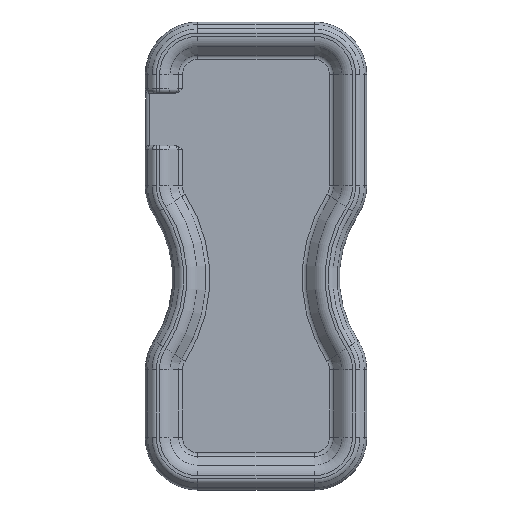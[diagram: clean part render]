
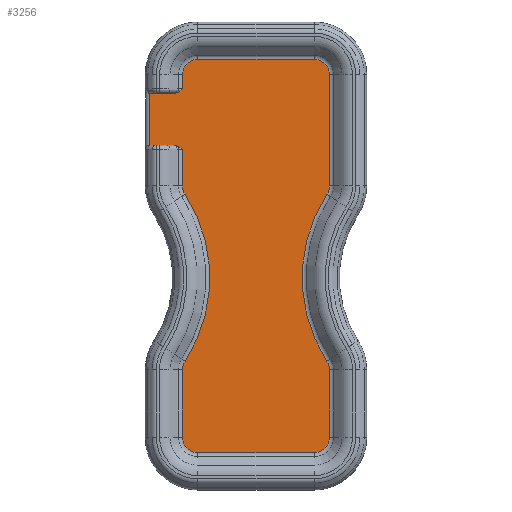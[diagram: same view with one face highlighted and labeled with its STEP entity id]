
A CAD part, top view. The second image highlights one B-rep face of the part: STEP entity #3256.
In plain terms, the highlighted planar face has unit normal (0, 0, 1).
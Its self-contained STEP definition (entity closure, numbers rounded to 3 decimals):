
#93=ELLIPSE('',#3483,2.121,1.5);
#94=ELLIPSE('',#3488,2.121,1.5);
#96=B_SPLINE_CURVE_WITH_KNOTS('',3,(#5396,#5397,#5398,#5399,#5400,#5401),
 .UNSPECIFIED.,.F.,.F.,(4,2,4),(0.,0.192,0.229),
 .UNSPECIFIED.);
#97=B_SPLINE_CURVE_WITH_KNOTS('',3,(#5411,#5412,#5413,#5414,#5415,#5416),
 .UNSPECIFIED.,.F.,.F.,(4,2,4),(0.874,0.911,1.102),
 .UNSPECIFIED.);
#322=FACE_OUTER_BOUND('',#537,.T.);
#537=EDGE_LOOP('',(#2778,#2779,#2780,#2781,#2782,#2783,#2784,#2785,#2786,
#2787,#2788,#2789,#2790,#2791,#2792,#2793,#2794,#2795,#2796,#2797,#2798,
#2799,#2800,#2801));
#773=CIRCLE('',#3639,5.343);
#774=CIRCLE('',#3640,52.506);
#775=CIRCLE('',#3641,5.343);
#776=CIRCLE('',#3642,5.343);
#777=CIRCLE('',#3643,5.343);
#778=CIRCLE('',#3644,5.343);
#779=CIRCLE('',#3645,52.506);
#780=CIRCLE('',#3646,5.343);
#781=CIRCLE('',#3647,5.343);
#782=CIRCLE('',#3648,5.343);
#964=LINE('',#5387,#1204);
#968=LINE('',#5423,#1208);
#1018=LINE('',#5649,#1258);
#1024=LINE('',#5691,#1264);
#1027=LINE('',#5698,#1267);
#1028=LINE('',#5708,#1268);
#1029=LINE('',#5712,#1269);
#1030=LINE('',#5716,#1270);
#1031=LINE('',#5724,#1271);
#1032=LINE('',#5728,#1272);
#1204=VECTOR('',#4217,10.);
#1208=VECTOR('',#4245,10.);
#1258=VECTOR('',#4505,10.);
#1264=VECTOR('',#4583,10.);
#1267=VECTOR('',#4590,10.);
#1268=VECTOR('',#4601,10.);
#1269=VECTOR('',#4604,10.);
#1270=VECTOR('',#4607,10.);
#1271=VECTOR('',#4614,10.);
#1272=VECTOR('',#4617,10.);
#1430=VERTEX_POINT('',#5208);
#1444=VERTEX_POINT('',#5278);
#1457=VERTEX_POINT('',#5332);
#1468=VERTEX_POINT('',#5383);
#1469=VERTEX_POINT('',#5389);
#1471=VERTEX_POINT('',#5395);
#1472=VERTEX_POINT('',#5404);
#1474=VERTEX_POINT('',#5410);
#1476=VERTEX_POINT('',#5421);
#1549=VERTEX_POINT('',#5697);
#1550=VERTEX_POINT('',#5701);
#1551=VERTEX_POINT('',#5703);
#1552=VERTEX_POINT('',#5705);
#1553=VERTEX_POINT('',#5707);
#1554=VERTEX_POINT('',#5709);
#1555=VERTEX_POINT('',#5711);
#1556=VERTEX_POINT('',#5713);
#1557=VERTEX_POINT('',#5715);
#1558=VERTEX_POINT('',#5717);
#1559=VERTEX_POINT('',#5719);
#1560=VERTEX_POINT('',#5721);
#1561=VERTEX_POINT('',#5723);
#1562=VERTEX_POINT('',#5725);
#1563=VERTEX_POINT('',#5727);
#1822=EDGE_CURVE('',#1430,#1468,#964,.T.);
#1823=EDGE_CURVE('',#1469,#1457,#93,.T.);
#1826=EDGE_CURVE('',#1471,#1469,#96,.T.);
#1828=EDGE_CURVE('',#1472,#1444,#94,.F.);
#1831=EDGE_CURVE('',#1474,#1472,#97,.F.);
#1835=EDGE_CURVE('',#1476,#1474,#968,.T.);
#1949=EDGE_CURVE('',#1468,#1457,#1018,.T.);
#1969=EDGE_CURVE('',#1444,#1430,#1024,.T.);
#1972=EDGE_CURVE('',#1471,#1549,#1027,.T.);
#1974=EDGE_CURVE('',#1550,#1476,#773,.T.);
#1975=EDGE_CURVE('',#1551,#1550,#774,.T.);
#1976=EDGE_CURVE('',#1552,#1551,#775,.T.);
#1977=EDGE_CURVE('',#1553,#1552,#1028,.T.);
#1978=EDGE_CURVE('',#1554,#1553,#776,.T.);
#1979=EDGE_CURVE('',#1555,#1554,#1029,.T.);
#1980=EDGE_CURVE('',#1556,#1555,#777,.T.);
#1981=EDGE_CURVE('',#1557,#1556,#1030,.T.);
#1982=EDGE_CURVE('',#1558,#1557,#778,.T.);
#1983=EDGE_CURVE('',#1559,#1558,#779,.T.);
#1984=EDGE_CURVE('',#1560,#1559,#780,.T.);
#1985=EDGE_CURVE('',#1561,#1560,#1031,.T.);
#1986=EDGE_CURVE('',#1562,#1561,#781,.T.);
#1987=EDGE_CURVE('',#1563,#1562,#1032,.T.);
#1988=EDGE_CURVE('',#1549,#1563,#782,.T.);
#2778=ORIENTED_EDGE('',*,*,#1822,.F.);
#2779=ORIENTED_EDGE('',*,*,#1969,.F.);
#2780=ORIENTED_EDGE('',*,*,#1828,.F.);
#2781=ORIENTED_EDGE('',*,*,#1831,.F.);
#2782=ORIENTED_EDGE('',*,*,#1835,.F.);
#2783=ORIENTED_EDGE('',*,*,#1974,.F.);
#2784=ORIENTED_EDGE('',*,*,#1975,.F.);
#2785=ORIENTED_EDGE('',*,*,#1976,.F.);
#2786=ORIENTED_EDGE('',*,*,#1977,.F.);
#2787=ORIENTED_EDGE('',*,*,#1978,.F.);
#2788=ORIENTED_EDGE('',*,*,#1979,.F.);
#2789=ORIENTED_EDGE('',*,*,#1980,.F.);
#2790=ORIENTED_EDGE('',*,*,#1981,.F.);
#2791=ORIENTED_EDGE('',*,*,#1982,.F.);
#2792=ORIENTED_EDGE('',*,*,#1983,.F.);
#2793=ORIENTED_EDGE('',*,*,#1984,.F.);
#2794=ORIENTED_EDGE('',*,*,#1985,.F.);
#2795=ORIENTED_EDGE('',*,*,#1986,.F.);
#2796=ORIENTED_EDGE('',*,*,#1987,.F.);
#2797=ORIENTED_EDGE('',*,*,#1988,.F.);
#2798=ORIENTED_EDGE('',*,*,#1972,.F.);
#2799=ORIENTED_EDGE('',*,*,#1826,.T.);
#2800=ORIENTED_EDGE('',*,*,#1823,.T.);
#2801=ORIENTED_EDGE('',*,*,#1949,.F.);
#3095=PLANE('',#3638);
#3256=ADVANCED_FACE('',(#322),#3095,.F.);
#3483=AXIS2_PLACEMENT_3D('',#5390,#4220,#4221);
#3488=AXIS2_PLACEMENT_3D('',#5405,#4231,#4232);
#3638=AXIS2_PLACEMENT_3D('',#5700,#4593,#4594);
#3639=AXIS2_PLACEMENT_3D('',#5702,#4595,#4596);
#3640=AXIS2_PLACEMENT_3D('',#5704,#4597,#4598);
#3641=AXIS2_PLACEMENT_3D('',#5706,#4599,#4600);
#3642=AXIS2_PLACEMENT_3D('',#5710,#4602,#4603);
#3643=AXIS2_PLACEMENT_3D('',#5714,#4605,#4606);
#3644=AXIS2_PLACEMENT_3D('',#5718,#4608,#4609);
#3645=AXIS2_PLACEMENT_3D('',#5720,#4610,#4611);
#3646=AXIS2_PLACEMENT_3D('',#5722,#4612,#4613);
#3647=AXIS2_PLACEMENT_3D('',#5726,#4615,#4616);
#3648=AXIS2_PLACEMENT_3D('',#5729,#4618,#4619);
#4217=DIRECTION('',(0.,1.,0.));
#4220=DIRECTION('center_axis',(0.,0.,
-1.));
#4221=DIRECTION('ref_axis',(1.,0.,0.));
#4231=DIRECTION('center_axis',(0.,0.,
-1.));
#4232=DIRECTION('ref_axis',(1.,0.,0.));
#4245=DIRECTION('',(0.,1.,0.));
#4505=DIRECTION('',(1.,0.,0.));
#4583=DIRECTION('',(-1.,0.,0.));
#4590=DIRECTION('',(0.,1.,0.));
#4593=DIRECTION('center_axis',(0.,0.,
-1.));
#4594=DIRECTION('ref_axis',(1.,0.,0.));
#4595=DIRECTION('center_axis',(0.,0.,
-1.));
#4596=DIRECTION('ref_axis',(-0.958,-0.286,0.));
#4597=DIRECTION('center_axis',(0.,0.,
1.));
#4598=DIRECTION('ref_axis',(1.,0.,0.));
#4599=DIRECTION('center_axis',(0.,0.,
-1.));
#4600=DIRECTION('ref_axis',(-0.958,0.286,0.));
#4601=DIRECTION('',(0.,1.,0.));
#4602=DIRECTION('center_axis',(0.,0.,
-1.));
#4603=DIRECTION('ref_axis',(-0.707,-0.707,0.));
#4604=DIRECTION('',(-1.,0.,0.));
#4605=DIRECTION('center_axis',(0.,0.,
-1.));
#4606=DIRECTION('ref_axis',(0.707,-0.707,0.));
#4607=DIRECTION('',(0.,-1.,0.));
#4608=DIRECTION('center_axis',(0.,0.,
-1.));
#4609=DIRECTION('ref_axis',(0.958,0.286,0.));
#4610=DIRECTION('center_axis',(0.,0.,
1.));
#4611=DIRECTION('ref_axis',(-1.,0.,0.));
#4612=DIRECTION('center_axis',(0.,0.,
-1.));
#4613=DIRECTION('ref_axis',(0.958,-0.286,0.));
#4614=DIRECTION('',(0.,-1.,0.));
#4615=DIRECTION('center_axis',(0.,0.,
-1.));
#4616=DIRECTION('ref_axis',(0.707,0.707,0.));
#4617=DIRECTION('',(1.,0.,0.));
#4618=DIRECTION('center_axis',(0.,0.,
-1.));
#4619=DIRECTION('ref_axis',(-0.707,0.707,0.));
#5208=CARTESIAN_POINT('',(-36.672,40.618,-29.));
#5278=CARTESIAN_POINT('',(-28.293,40.618,-29.));
#5332=CARTESIAN_POINT('',(-28.293,58.618,-29.));
#5383=CARTESIAN_POINT('',(-36.672,58.618,-29.));
#5387=CARTESIAN_POINT('',(-36.672,14.579,-29.));
#5389=CARTESIAN_POINT('',(-27.343,58.777,-29.));
#5390=CARTESIAN_POINT('Origin',(-28.293,60.118,-29.));
#5395=CARTESIAN_POINT('',(-25.343,60.118,-29.));
#5396=CARTESIAN_POINT('Ctrl Pts',(-25.343,60.118,-29.));
#5397=CARTESIAN_POINT('Ctrl Pts',(-25.826,59.7,-29.));
#5398=CARTESIAN_POINT('Ctrl Pts',(-26.411,59.206,-29.));
#5399=CARTESIAN_POINT('Ctrl Pts',(-27.097,58.873,-29.));
#5400=CARTESIAN_POINT('Ctrl Pts',(-27.217,58.821,-29.));
#5401=CARTESIAN_POINT('Ctrl Pts',(-27.343,58.777,-29.));
#5404=CARTESIAN_POINT('',(-27.343,40.459,-29.));
#5405=CARTESIAN_POINT('Origin',(-28.293,39.118,-29.));
#5410=CARTESIAN_POINT('',(-25.343,39.118,-29.));
#5411=CARTESIAN_POINT('Ctrl Pts',(-27.343,40.459,-29.));
#5412=CARTESIAN_POINT('Ctrl Pts',(-27.217,40.415,-29.));
#5413=CARTESIAN_POINT('Ctrl Pts',(-27.097,40.363,-29.));
#5414=CARTESIAN_POINT('Ctrl Pts',(-26.411,40.03,-29.));
#5415=CARTESIAN_POINT('Ctrl Pts',(-25.826,39.536,-29.));
#5416=CARTESIAN_POINT('Ctrl Pts',(-25.343,39.118,-29.));
#5421=CARTESIAN_POINT('',(-25.343,26.659,-29.));
#5423=CARTESIAN_POINT('',(-25.343,8.54,-29.));
#5649=CARTESIAN_POINT('',(-44.94,58.618,-29.));
#5691=CARTESIAN_POINT('',(-23.389,40.618,-29.));
#5697=CARTESIAN_POINT('',(-25.343,65.,-29.));
#5698=CARTESIAN_POINT('',(-25.343,16.279,-29.));
#5700=CARTESIAN_POINT('Origin',(-6.414,2.5,-29.));
#5701=CARTESIAN_POINT('',(-24.472,23.735,-29.));
#5702=CARTESIAN_POINT('Origin',(-20.,26.659,-29.));
#5703=CARTESIAN_POINT('',(-24.472,-33.735,-29.));
#5704=CARTESIAN_POINT('Origin',(-68.417,-5.,-29.));
#5705=CARTESIAN_POINT('',(-25.343,-36.659,-29.));
#5706=CARTESIAN_POINT('Origin',(-20.,-36.659,-29.));
#5707=CARTESIAN_POINT('',(-25.343,-60.,-29.));
#5708=CARTESIAN_POINT('',(-25.343,-13.125,-29.));
#5709=CARTESIAN_POINT('',(-20.,-65.343,-29.));
#5710=CARTESIAN_POINT('Origin',(-20.,-60.,-29.));
#5711=CARTESIAN_POINT('',(20.,-65.343,-29.));
#5712=CARTESIAN_POINT('',(0.189,-65.343,-29.));
#5713=CARTESIAN_POINT('',(25.343,-60.,-29.));
#5714=CARTESIAN_POINT('Origin',(20.,-60.,-29.));
#5715=CARTESIAN_POINT('',(25.343,-36.659,-29.));
#5716=CARTESIAN_POINT('',(25.343,-7.29,-29.));
#5717=CARTESIAN_POINT('',(24.472,-33.735,-29.));
#5718=CARTESIAN_POINT('Origin',(20.,-36.659,-29.));
#5719=CARTESIAN_POINT('',(24.472,23.735,-29.));
#5720=CARTESIAN_POINT('Origin',(68.417,-5.,-29.));
#5721=CARTESIAN_POINT('',(25.343,26.659,-29.));
#5722=CARTESIAN_POINT('Origin',(20.,26.659,-29.));
#5723=CARTESIAN_POINT('',(25.343,65.,-29.));
#5724=CARTESIAN_POINT('',(25.343,18.125,-29.));
#5725=CARTESIAN_POINT('',(20.,70.343,-29.));
#5726=CARTESIAN_POINT('Origin',(20.,65.,-29.));
#5727=CARTESIAN_POINT('',(-20.,70.343,-29.));
#5728=CARTESIAN_POINT('',(-9.811,70.343,-29.));
#5729=CARTESIAN_POINT('Origin',(-20.,65.,-29.));
